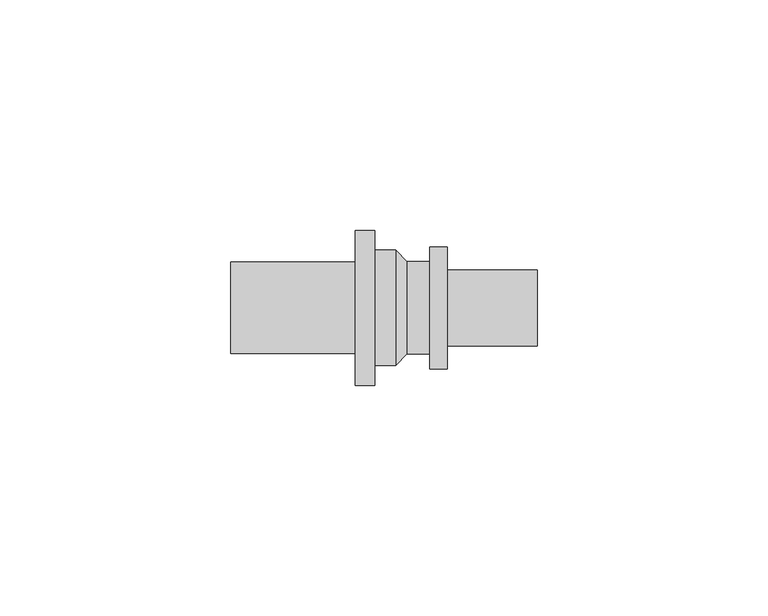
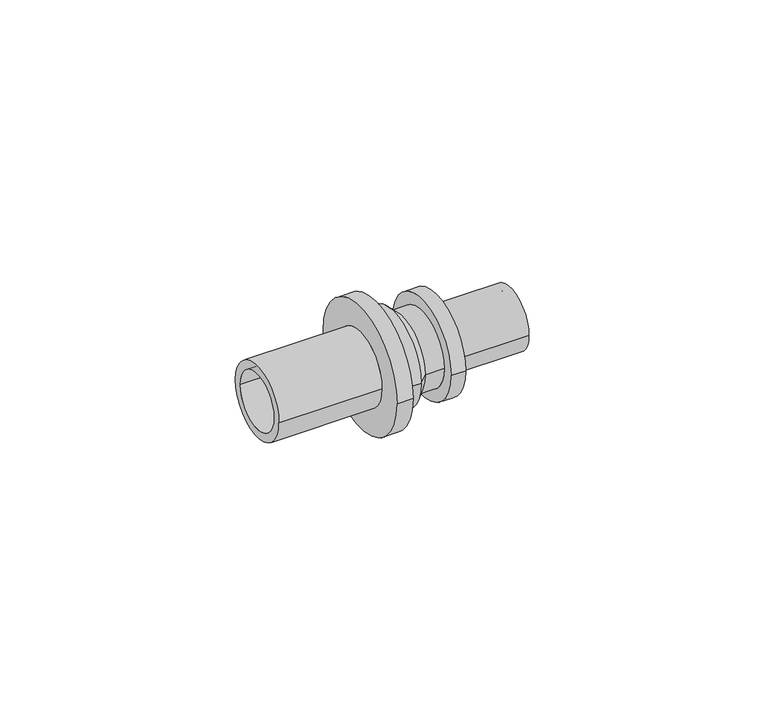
"""IFC4 building model written with IfcOpenShell, lengths in millimetres: pipe fitting geometry, RAUTITAN_Transition_LX : RTI LX Tr DE."""

from ifc_helpers import new_model, si_unit, frame, origin, place, context, project, spatial, polyline, circle_curve, source, transform, mapped, element, save
from ifc_brep_helpers import plane_surface, cylinder_surface, revolved_surface, advanced_brep


def pipe_fitting_4a6725c8(model_context):
    return source(origin(), model_context, "Body", "AdvancedBrep", [
        advanced_brep(
        [(-37.0, 7.6, 0.0), (-37.0, -7.6, 0.0), (-0.675, -7.6, 0.0), (-0.675, 7.6, 0.0), (-1.225, 12.5, 0.0), (-1.225, -12.5, 0.0), (-5.8, -12.5, 0.0), (-5.8, 12.5, 0.0), (1.225, 10.05, 0.0), (1.225, -10.05, 0.0), (6.2, 10.05, 0.0), (6.2, -10.05, 0.0), (10.0, 13.25, 0.0), (10.0, -13.25, 0.0), (6.2, -13.25, 0.0), (6.2, 13.25, 0.0), (29.5, 8.25, 0.0), (29.5, -8.25, 0.0), (10.0, -8.25, 0.0), (10.0, 8.25, 0.0), (0.675, 6.25, 0.0), (0.675, -6.25, 0.0), (29.5, -6.25, 0.0), (29.5, 6.25, 0.0), (-5.8, 16.8, 0.0), (-5.8, -16.8, 0.0), (-10.0, 9.9, 0.0), (-10.0, -9.9, 0.0), (-37.0, -9.9, 0.0), (-37.0, 9.9, 0.0), (-10.0, -16.8, 0.0), (-10.0, 16.8, 0.0)],
        [
            (0, 1, circle_curve(frame((-37.0, 0.0, 0.0), z_axis=(-1.0, 0.0, 0.0), x_axis=(0.0, -1.0, 0.0)), 7.6)),
            (1, 2),
            (2, 3, circle_curve(frame((-0.675, 0.0, 0.0), z_axis=(1.0, 0.0, 0.0), x_axis=(0.0, -1.0, 0.0)), 7.6)),
            (3, 0),
            (4, 5, circle_curve(frame((-1.225, 0.0, 0.0), z_axis=(-1.0, 0.0, 0.0), x_axis=(0.0, -1.0, 0.0)), 12.5)),
            (5, 6),
            (6, 7, circle_curve(frame((-5.8, 0.0, 0.0), z_axis=(1.0, 0.0, 0.0), x_axis=(0.0, -1.0, 0.0)), 12.5)),
            (7, 4),
            (8, 9, circle_curve(frame((1.225, 0.0, 0.0), z_axis=(-1.0, 0.0, 0.0), x_axis=(0.0, -1.0, 0.0)), 10.05)),
            (9, 5),
            (4, 8),
            (10, 11, circle_curve(frame((6.2, 0.0, 0.0), z_axis=(-1.0, 0.0, 0.0), x_axis=(0.0, -1.0, 0.0)), 10.05)),
            (11, 9),
            (8, 10),
            (12, 13, circle_curve(frame((10.0, 0.0, 0.0), z_axis=(-1.0, 0.0, 0.0), x_axis=(0.0, -1.0, 0.0)), 13.25)),
            (13, 14),
            (14, 15, circle_curve(frame((6.2, 0.0, 0.0), z_axis=(1.0, 0.0, 0.0), x_axis=(0.0, -1.0, 0.0)), 13.25)),
            (15, 12),
            (16, 17, circle_curve(frame((29.5, 0.0, 0.0), z_axis=(-1.0, 0.0, 0.0), x_axis=(0.0, -1.0, 0.0)), 8.25)),
            (17, 18),
            (18, 19, circle_curve(frame((10.0, 0.0, 0.0), z_axis=(1.0, 0.0, 0.0), x_axis=(0.0, -1.0, 0.0)), 8.25)),
            (19, 16),
            (20, 21, circle_curve(frame((0.675, 0.0, 0.0), z_axis=(-1.0, 0.0, 0.0), x_axis=(0.0, -1.0, 0.0)), 6.25)),
            (21, 22),
            (22, 23, circle_curve(frame((29.5, 0.0, 0.0), z_axis=(1.0, 0.0, 0.0), x_axis=(0.0, -1.0, 0.0)), 6.25)),
            (23, 20),
            (2, 21),
            (20, 3),
            (1, 0, circle_curve(frame((-37.0, 0.0, 0.0), z_axis=(-1.0, 0.0, 0.0), x_axis=(0.0, 1.0, 0.0)), 7.6)),
            (3, 2, circle_curve(frame((-0.675, 0.0, 0.0), z_axis=(1.0, 0.0, 0.0), x_axis=(0.0, 1.0, 0.0)), 7.6)),
            (24, 25, circle_curve(frame((-5.8, 0.0, 0.0), z_axis=(1.0, 0.0, 0.0), x_axis=(0.0, 1.0, 0.0)), 16.8)),
            (25, 24, circle_curve(frame((-5.8, 0.0, 0.0), z_axis=(1.0, 0.0, 0.0), x_axis=(0.0, -1.0, 0.0)), 16.8)),
            (6, 7, circle_curve(frame((-5.8, 0.0, 0.0), z_axis=(-1.0, 0.0, 0.0), x_axis=(0.0, 1.0, 0.0)), 12.5)),
            (5, 4, circle_curve(frame((-1.225, 0.0, 0.0), z_axis=(-1.0, 0.0, 0.0), x_axis=(0.0, 1.0, 0.0)), 12.5)),
            (9, 8, circle_curve(frame((1.225, 0.0, 0.0), z_axis=(-1.0, 0.0, 0.0), x_axis=(0.0, 1.0, 0.0)), 10.05)),
            (11, 10, circle_curve(frame((6.2, 0.0, 0.0), z_axis=(-1.0, 0.0, 0.0), x_axis=(0.0, 1.0, 0.0)), 10.05)),
            (14, 15, circle_curve(frame((6.2, 0.0, 0.0), z_axis=(-1.0, 0.0, 0.0), x_axis=(0.0, 1.0, 0.0)), 13.25)),
            (13, 12, circle_curve(frame((10.0, 0.0, 0.0), z_axis=(-1.0, 0.0, 0.0), x_axis=(0.0, 1.0, 0.0)), 13.25)),
            (18, 19, circle_curve(frame((10.0, 0.0, 0.0), z_axis=(-1.0, 0.0, 0.0), x_axis=(0.0, 1.0, 0.0)), 8.25)),
            (17, 16, circle_curve(frame((29.5, 0.0, 0.0), z_axis=(-1.0, 0.0, 0.0), x_axis=(0.0, 1.0, 0.0)), 8.25)),
            (22, 23, circle_curve(frame((29.5, 0.0, 0.0), z_axis=(-1.0, 0.0, 0.0), x_axis=(0.0, 1.0, 0.0)), 6.25)),
            (21, 20, circle_curve(frame((0.675, 0.0, 0.0), z_axis=(-1.0, 0.0, 0.0), x_axis=(0.0, 1.0, 0.0)), 6.25)),
            (26, 27, circle_curve(frame((-10.0, 0.0, 0.0), z_axis=(-1.0, 0.0, 0.0), x_axis=(0.0, -1.0, 0.0)), 9.9)),
            (27, 28),
            (28, 29, circle_curve(frame((-37.0, 0.0, 0.0), z_axis=(1.0, 0.0, 0.0), x_axis=(0.0, -1.0, 0.0)), 9.9)),
            (29, 26),
            (25, 30),
            (30, 31, circle_curve(frame((-10.0, 0.0, 0.0), z_axis=(1.0, 0.0, 0.0), x_axis=(0.0, -1.0, 0.0)), 16.8)),
            (31, 24),
            (28, 29, circle_curve(frame((-37.0, 0.0, 0.0), z_axis=(-1.0, 0.0, 0.0), x_axis=(0.0, 1.0, 0.0)), 9.9)),
            (27, 26, circle_curve(frame((-10.0, 0.0, 0.0), z_axis=(-1.0, 0.0, 0.0), x_axis=(0.0, 1.0, 0.0)), 9.9)),
            (30, 31, circle_curve(frame((-10.0, 0.0, 0.0), z_axis=(-1.0, 0.0, 0.0), x_axis=(0.0, 1.0, 0.0)), 16.8)),
        ],
        [
            revolved_surface(polyline([(-0.675, -7.6, 0.0), (-37.0, -7.6, 0.0)]), (0.0, 0.0, 0.0), (1.0, 0.0, 0.0)),
            cylinder_surface(frame((0.0, 0.0, 0.0), z_axis=(1.0, 0.0, 0.0), x_axis=(0.0, -1.0, 0.0)), 12.5),
            revolved_surface(polyline([(-1.225, -12.5, 0.0), (1.225, -10.05, 0.0)]), (0.0, 0.0, 0.0), (1.0, 0.0, 0.0)),
            cylinder_surface(frame((0.0, 0.0, 0.0), z_axis=(1.0, 0.0, 0.0), x_axis=(0.0, -1.0, 0.0)), 10.05),
            cylinder_surface(frame((0.0, 0.0, 0.0), z_axis=(1.0, 0.0, 0.0), x_axis=(0.0, -1.0, 0.0)), 13.25),
            cylinder_surface(frame((0.0, 0.0, 0.0), z_axis=(1.0, 0.0, 0.0), x_axis=(0.0, -1.0, 0.0)), 8.25),
            revolved_surface(polyline([(29.5, -6.25, 0.0), (0.675, -6.25, 0.0)]), (0.0, 0.0, 0.0), (1.0, 0.0, 0.0)),
            revolved_surface(polyline([(0.675, -6.25, 0.0), (-0.675, -7.6, 0.0)]), (0.0, 0.0, 0.0), (1.0, 0.0, 0.0)),
            revolved_surface(polyline([(-0.675, 7.6, 0.0), (-37.0, 7.6, 0.0)]), (0.0, 0.0, 0.0), (1.0, 0.0, 0.0)),
            plane_surface(frame((-5.8, 0.0, 0.0), z_axis=(1.0, 0.0, 0.0), x_axis=(0.0, 1.0, 0.0))),
            cylinder_surface(frame((0.0, 0.0, 0.0), z_axis=(1.0, 0.0, 0.0), x_axis=(0.0, 1.0, 0.0)), 12.5),
            revolved_surface(polyline([(-1.225, 12.5, 0.0), (1.225, 10.05, 0.0)]), (0.0, 0.0, 0.0), (1.0, 0.0, 0.0)),
            cylinder_surface(frame((0.0, 0.0, 0.0), z_axis=(1.0, 0.0, 0.0), x_axis=(0.0, 1.0, 0.0)), 10.05),
            plane_surface(frame((6.2, 0.0, 0.0), z_axis=(-1.0, 0.0, 0.0), x_axis=(0.0, 1.0, 0.0))),
            cylinder_surface(frame((0.0, 0.0, 0.0), z_axis=(1.0, 0.0, 0.0), x_axis=(0.0, 1.0, 0.0)), 13.25),
            plane_surface(frame((10.0, 0.0, 0.0), z_axis=(1.0, 0.0, 0.0), x_axis=(0.0, 1.0, 0.0))),
            cylinder_surface(frame((0.0, 0.0, 0.0), z_axis=(1.0, 0.0, 0.0), x_axis=(0.0, 1.0, 0.0)), 8.25),
            plane_surface(frame((29.5, 0.0, 0.0), z_axis=(1.0, 0.0, 0.0), x_axis=(0.0, 1.0, 0.0))),
            revolved_surface(polyline([(29.5, 6.25, 0.0), (0.675, 6.25, 0.0)]), (0.0, 0.0, 0.0), (1.0, 0.0, 0.0)),
            revolved_surface(polyline([(0.675, 6.25, 0.0), (-0.675, 7.6, 0.0)]), (0.0, 0.0, 0.0), (1.0, 0.0, 0.0)),
            cylinder_surface(frame((0.0, 0.0, 0.0), z_axis=(1.0, 0.0, 0.0), x_axis=(0.0, -1.0, 0.0)), 9.9),
            cylinder_surface(frame((0.0, 0.0, 0.0), z_axis=(1.0, 0.0, 0.0), x_axis=(0.0, -1.0, 0.0)), 16.8),
            plane_surface(frame((-37.0, 0.0, 0.0), z_axis=(-1.0, 0.0, 0.0), x_axis=(0.0, 1.0, 0.0))),
            cylinder_surface(frame((0.0, 0.0, 0.0), z_axis=(1.0, 0.0, 0.0), x_axis=(0.0, 1.0, 0.0)), 9.9),
            plane_surface(frame((-10.0, 0.0, 0.0), z_axis=(-1.0, 0.0, 0.0), x_axis=(0.0, 1.0, 0.0))),
            cylinder_surface(frame((0.0, 0.0, 0.0), z_axis=(1.0, 0.0, 0.0), x_axis=(0.0, 1.0, 0.0)), 16.8),
        ],
        [
            (0, [[1, 2, 3, 4]]),
            (1, [[5, 6, 7, 8]]),
            (2, [[9, 10, -5, 11]]),
            (3, [[12, 13, -9, 14]]),
            (4, [[15, 16, 17, 18]]),
            (5, [[19, 20, 21, 22]]),
            (6, [[23, 24, 25, 26]]),
            (7, [[-3, 27, -23, 28]]),
            (8, [[29, -4, 30, -2]]),
            (9, [[31, 32], [33, -7]]),
            (10, [[34, -8, -33, -6]]),
            (11, [[35, -11, -34, -10]]),
            (12, [[36, -14, -35, -13]]),
            (13, [[37, -17], [-36, -12]]),
            (14, [[38, -18, -37, -16]]),
            (15, [[-38, -15], [39, -21]]),
            (16, [[40, -22, -39, -20]]),
            (17, [[-40, -19], [41, -25]]),
            (18, [[42, -26, -41, -24]]),
            (19, [[-30, -28, -42, -27]]),
            (20, [[43, 44, 45, 46]]),
            (21, [[-32, 47, 48, 49]]),
            (22, [[50, -45], [-29, -1]]),
            (23, [[51, -46, -50, -44]]),
            (24, [[52, -48], [-51, -43]]),
            (25, [[-31, -49, -52, -47]]),
        ],
    ),
    ])


if __name__ == "__main__":
    model = new_model("IFC4")
    model_context = context("Model", 3, world=origin())
    ifc_project = project(units=[si_unit("LENGTHUNIT", "METRE", prefix="MILLI")], contexts=[model_context])
    site = spatial("IfcSite", under=ifc_project)
    building = spatial("IfcBuilding", under=site)
    placement = place(None, origin())
    pipe_fitting_shape = pipe_fitting_4a6725c8(model_context)
    element("IfcPipeFitting", 1, ObjectType="RAUTITAN_Transition_LX : RTI LX Tr DE", at=placement, inside=building, context=model_context, shape_type="MappedRepresentation", body=[
        mapped(pipe_fitting_shape, transform((0.0, 0.0, 0.0), x_axis=(1.0, 0.0, 0.0), y_axis=(0.0, 1.0, 0.0), z_axis=(0.0, 0.0, 1.0))),
    ])
    save(model, "model.ifc")
